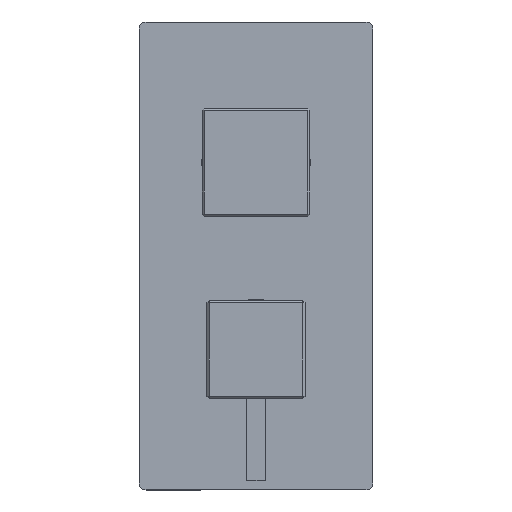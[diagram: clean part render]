
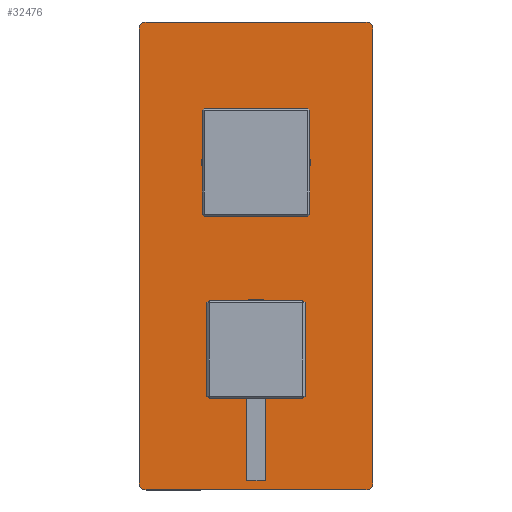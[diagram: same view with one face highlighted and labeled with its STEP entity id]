
A CAD part, top view. The second image highlights one B-rep face of the part: STEP entity #32476.
In plain terms, the highlighted planar face has unit normal (0, 0, 1) as drawn and (0, 0, -1) by its records, which use the part's own axes.
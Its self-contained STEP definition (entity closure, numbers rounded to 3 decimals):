
#246 = ORIENTED_EDGE ( 'NONE', *, *, #3672, .T. ) ;
#248 = CARTESIAN_POINT ( 'NONE',  ( 100., 47., 0. ) ) ;
#817 = ORIENTED_EDGE ( 'NONE', *, *, #3211, .T. ) ;
#1210 = CIRCLE ( 'NONE', #26637, 3. ) ;
#1475 = LINE ( 'NONE', #9456, #7713 ) ;
#2962 = VERTEX_POINT ( 'NONE', #16932 ) ;
#3211 = EDGE_CURVE ( 'NONE', #21088, #18201, #16556, .T. ) ;
#3672 = EDGE_CURVE ( 'NONE', #2962, #22698, #27068, .T. ) ;
#4769 = CARTESIAN_POINT ( 'NONE',  ( 97., 47., 0. ) ) ;
#5139 = CARTESIAN_POINT ( 'NONE',  ( 40., 0., 0. ) ) ;
#5233 = AXIS2_PLACEMENT_3D ( 'NONE', #28086, #7192, #20334 ) ;
#6142 = CARTESIAN_POINT ( 'NONE',  ( 0., 0., 0. ) ) ;
#6406 = EDGE_CURVE ( 'NONE', #27364, #28724, #27293, .T. ) ;
#6408 = EDGE_CURVE ( 'NONE', #29521, #15499, #28379, .T. ) ;
#7192 = DIRECTION ( 'NONE',  ( 0., 0., 1. ) ) ;
#7713 = VECTOR ( 'NONE', #22604, 1000. ) ;
#7859 = CARTESIAN_POINT ( 'NONE',  ( -100., -47., 0. ) ) ;
#8202 = CARTESIAN_POINT ( 'NONE',  ( 100., 50., 0. ) ) ;
#8357 = DIRECTION ( 'NONE',  ( 1., 0., 0. ) ) ;
#8358 = CARTESIAN_POINT ( 'NONE',  ( -60.7, 0., 0. ) ) ;
#9073 = AXIS2_PLACEMENT_3D ( 'NONE', #4769, #22937, #17566 ) ;
#9258 = FACE_BOUND ( 'NONE', #23941, .T. ) ;
#9357 = EDGE_CURVE ( 'NONE', #29068, #22698, #1475, .T. ) ;
#9456 = CARTESIAN_POINT ( 'NONE',  ( 100., -50., 0. ) ) ;
#9476 = CARTESIAN_POINT ( 'NONE',  ( 16.8, 0., 0. ) ) ;
#10237 = CIRCLE ( 'NONE', #33392, 23.2 ) ;
#10508 = CARTESIAN_POINT ( 'NONE',  ( -100., -50., 0. ) ) ;
#10806 = LINE ( 'NONE', #8202, #32228 ) ;
#11283 = DIRECTION ( 'NONE',  ( 0., 0., 1. ) ) ;
#11791 = ORIENTED_EDGE ( 'NONE', *, *, #16636, .F. ) ;
#12175 = DIRECTION ( 'NONE',  ( 0., 0., -1. ) ) ;
#12353 = ORIENTED_EDGE ( 'NONE', *, *, #21837, .F. ) ;
#12555 = CIRCLE ( 'NONE', #31894, 20.7 ) ;
#12662 = ORIENTED_EDGE ( 'NONE', *, *, #30087, .T. ) ;
#15125 = CARTESIAN_POINT ( 'NONE',  ( 100., -50., 0. ) ) ;
#15185 = DIRECTION ( 'NONE',  ( 0., 0., 1. ) ) ;
#15303 = EDGE_CURVE ( 'NONE', #29068, #26060, #1210, .T. ) ;
#15499 = VERTEX_POINT ( 'NONE', #8358 ) ;
#15511 = LINE ( 'NONE', #10508, #19125 ) ;
#15797 = CARTESIAN_POINT ( 'NONE',  ( -97., -50., 0. ) ) ;
#15819 = AXIS2_PLACEMENT_3D ( 'NONE', #5139, #23648, #18637 ) ;
#16362 = VECTOR ( 'NONE', #23250, 1000. ) ;
#16525 = DIRECTION ( 'NONE',  ( 1., 0., 0. ) ) ;
#16556 = CIRCLE ( 'NONE', #29807, 3. ) ;
#16636 = EDGE_CURVE ( 'NONE', #27364, #18201, #10806, .T. ) ;
#16932 = CARTESIAN_POINT ( 'NONE',  ( 100., -47., 0. ) ) ;
#17064 = EDGE_LOOP ( 'NONE', ( #20205, #23087 ) ) ;
#17542 = ORIENTED_EDGE ( 'NONE', *, *, #22148, .F. ) ;
#17566 = DIRECTION ( 'NONE',  ( 1., 0., 0. ) ) ;
#17787 = DIRECTION ( 'NONE',  ( 0., 0., -1. ) ) ;
#17803 = VERTEX_POINT ( 'NONE', #9476 ) ;
#18201 = VERTEX_POINT ( 'NONE', #32253 ) ;
#18525 = CARTESIAN_POINT ( 'NONE',  ( -19.3, 0., 0. ) ) ;
#18637 = DIRECTION ( 'NONE',  ( 1., 0., 0. ) ) ;
#19125 = VECTOR ( 'NONE', #26576, 1000. ) ;
#19414 = VERTEX_POINT ( 'NONE', #33967 ) ;
#19809 = DIRECTION ( 'NONE',  ( 1., 0., 0. ) ) ;
#20205 = ORIENTED_EDGE ( 'NONE', *, *, #24666, .T. ) ;
#20334 = DIRECTION ( 'NONE',  ( 1., 0., 0. ) ) ;
#20354 = DIRECTION ( 'NONE',  ( -1., 0., 0. ) ) ;
#20539 = CARTESIAN_POINT ( 'NONE',  ( -40., 0., 0. ) ) ;
#20839 = CARTESIAN_POINT ( 'NONE',  ( 97., 50., 0. ) ) ;
#20977 = CARTESIAN_POINT ( 'NONE',  ( -100., 47., 0. ) ) ;
#21088 = VERTEX_POINT ( 'NONE', #20977 ) ;
#21140 = EDGE_LOOP ( 'NONE', ( #12353, #817, #11791, #32698, #17542, #246, #32326, #29274 ) ) ;
#21663 = CARTESIAN_POINT ( 'NONE',  ( 40., 0., 0. ) ) ;
#21777 = EDGE_CURVE ( 'NONE', #17803, #19414, #29586, .T. ) ;
#21837 = EDGE_CURVE ( 'NONE', #21088, #26060, #15511, .T. ) ;
#22050 = DIRECTION ( 'NONE',  ( 0., 0., 1. ) ) ;
#22148 = EDGE_CURVE ( 'NONE', #2962, #28724, #25669, .T. ) ;
#22219 = FACE_BOUND ( 'NONE', #17064, .T. ) ;
#22604 = DIRECTION ( 'NONE',  ( 1., 0., 0. ) ) ;
#22698 = VERTEX_POINT ( 'NONE', #29403 ) ;
#22909 = DIRECTION ( 'NONE',  ( 1., 0., 0. ) ) ;
#22937 = DIRECTION ( 'NONE',  ( 0., 0., -1. ) ) ;
#23087 = ORIENTED_EDGE ( 'NONE', *, *, #6408, .T. ) ;
#23250 = DIRECTION ( 'NONE',  ( 0., 1., 0. ) ) ;
#23648 = DIRECTION ( 'NONE',  ( 0., 0., 1. ) ) ;
#23720 = AXIS2_PLACEMENT_3D ( 'NONE', #29666, #32256, #16525 ) ;
#23941 = EDGE_LOOP ( 'NONE', ( #25443, #12662 ) ) ;
#24326 = AXIS2_PLACEMENT_3D ( 'NONE', #6142, #22050, #32571 ) ;
#24666 = EDGE_CURVE ( 'NONE', #15499, #29521, #12555, .T. ) ;
#25443 = ORIENTED_EDGE ( 'NONE', *, *, #21777, .T. ) ;
#25669 = LINE ( 'NONE', #15125, #16362 ) ;
#26060 = VERTEX_POINT ( 'NONE', #7859 ) ;
#26576 = DIRECTION ( 'NONE',  ( 0., -1., 0. ) ) ;
#26637 = AXIS2_PLACEMENT_3D ( 'NONE', #31005, #12175, #22909 ) ;
#27068 = CIRCLE ( 'NONE', #23720, 3. ) ;
#27293 = CIRCLE ( 'NONE', #9073, 3. ) ;
#27364 = VERTEX_POINT ( 'NONE', #20839 ) ;
#28086 = CARTESIAN_POINT ( 'NONE',  ( -40., 0., 0. ) ) ;
#28379 = CIRCLE ( 'NONE', #5233, 20.7 ) ;
#28724 = VERTEX_POINT ( 'NONE', #248 ) ;
#29068 = VERTEX_POINT ( 'NONE', #15797 ) ;
#29274 = ORIENTED_EDGE ( 'NONE', *, *, #15303, .T. ) ;
#29403 = CARTESIAN_POINT ( 'NONE',  ( 97., -50., 0. ) ) ;
#29521 = VERTEX_POINT ( 'NONE', #18525 ) ;
#29586 = CIRCLE ( 'NONE', #15819, 23.2 ) ;
#29666 = CARTESIAN_POINT ( 'NONE',  ( 97., -47., 0. ) ) ;
#29807 = AXIS2_PLACEMENT_3D ( 'NONE', #33515, #17787, #19809 ) ;
#29816 = FACE_OUTER_BOUND ( 'NONE', #21140, .T. ) ;
#30087 = EDGE_CURVE ( 'NONE', #19414, #17803, #10237, .T. ) ;
#30328 = PLANE ( 'NONE',  #24326 ) ;
#31005 = CARTESIAN_POINT ( 'NONE',  ( -97., -47., 0. ) ) ;
#31894 = AXIS2_PLACEMENT_3D ( 'NONE', #20539, #15185, #33673 ) ;
#32228 = VECTOR ( 'NONE', #20354, 1000. ) ;
#32253 = CARTESIAN_POINT ( 'NONE',  ( -97., 50., 0. ) ) ;
#32256 = DIRECTION ( 'NONE',  ( 0., 0., -1. ) ) ;
#32326 = ORIENTED_EDGE ( 'NONE', *, *, #9357, .F. ) ;
#32476 = ADVANCED_FACE ( 'NONE', ( #29816, #22219, #9258 ), #30328, .F. ) ;
#32571 = DIRECTION ( 'NONE',  ( 1., 0., 0. ) ) ;
#32698 = ORIENTED_EDGE ( 'NONE', *, *, #6406, .T. ) ;
#33392 = AXIS2_PLACEMENT_3D ( 'NONE', #21663, #11283, #8357 ) ;
#33515 = CARTESIAN_POINT ( 'NONE',  ( -97., 47., 0. ) ) ;
#33673 = DIRECTION ( 'NONE',  ( 1., 0., 0. ) ) ;
#33967 = CARTESIAN_POINT ( 'NONE',  ( 63.2, 0., 0. ) ) ;
